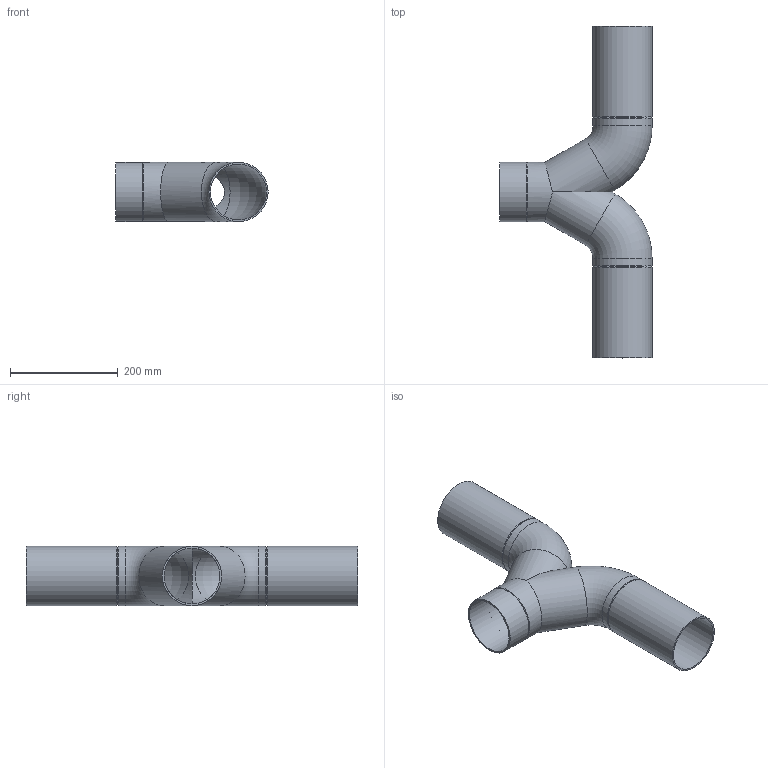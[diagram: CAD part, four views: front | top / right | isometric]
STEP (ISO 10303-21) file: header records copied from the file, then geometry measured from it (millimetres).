
FILE_DESCRIPTION(/* description */ (''),/* implementation_level */ '2;1');
FILE_NAME(/* name */ 'Z:\Geberit\Export\NewStep\367458.stp',/* time_stamp */ '2014-04-02T07:57:10+02:00',/* author */ ('nelson'),/* organization */ (''),/* preprocessor_version */ 'ST-DEVELOPER v15.2',/* originating_system */ 'Autodesk Inventor 2014',/* authorisation */ '');
FILE_SCHEMA (('AUTOMOTIVE_DESIGN { 1 0 10303 214 3 1 1 }'));
Length unit declared in the file: millimetre
Products named in the file (1): 367458
Bounding box: 283 x 617 x 110 mm (x, y, z)
Volume: 775190.6 mm3; surface area: 521535.1 mm2
Topology: 1 solids, 1 shells, 26 faces, 63 edges, 38 vertices
Faces by surface type: cylinder 13, cone 6, torus 4, plane 3
Full cylindrical faces by diameter (mm): 104 x5, 110 x8
Entity records: 575 total; most frequent: DIRECTION 112, CARTESIAN_POINT 83, ORIENTED_EDGE 58, AXIS2_PLACEMENT_3D 56, EDGE_LOOP 52, FACE_BOUND 29, EDGE_CURVE 29, VERTEX_POINT 27
